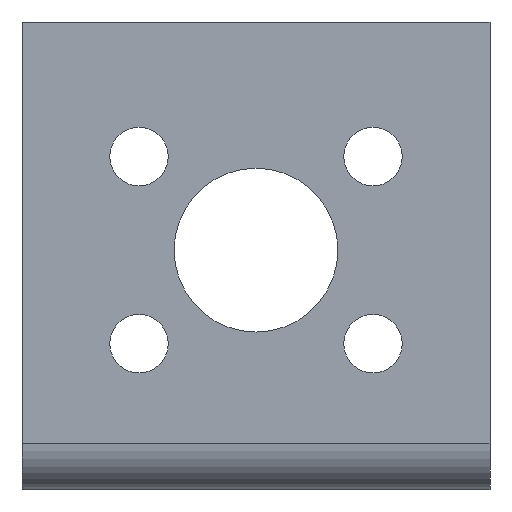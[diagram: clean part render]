
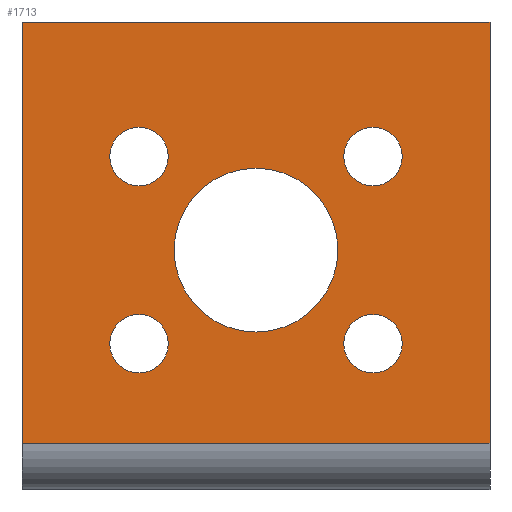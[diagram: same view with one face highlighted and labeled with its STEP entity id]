
A CAD part, front view. The second image highlights one B-rep face of the part: STEP entity #1713.
In plain terms, the highlighted planar face has unit normal (0, -1, 0).
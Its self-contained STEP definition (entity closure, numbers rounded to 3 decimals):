
#18 = ORIENTED_EDGE ( 'NONE', *, *, #375, .F. ) ;
#29 = CIRCLE ( 'NONE', #153, 2.5 ) ;
#55 = DIRECTION ( 'NONE',  ( 0., 0., -1. ) ) ;
#69 = DIRECTION ( 'NONE',  ( 0., 0., -1. ) ) ;
#71 = VERTEX_POINT ( 'NONE', #354 ) ;
#77 = EDGE_CURVE ( 'NONE', #1799, #969, #2242, .T. ) ;
#80 = CARTESIAN_POINT ( 'NONE',  ( 10., -150., 8.5 ) ) ;
#90 = EDGE_CURVE ( 'NONE', #969, #1799, #1185, .T. ) ;
#91 = EDGE_LOOP ( 'NONE', ( #1217, #1016, #755, #822 ) ) ;
#92 = DIRECTION ( 'NONE',  ( 0., 0., -1. ) ) ;
#116 = CIRCLE ( 'NONE', #136, 2.5 ) ;
#123 = AXIS2_PLACEMENT_3D ( 'NONE', #1392, #254, #55 ) ;
#136 = AXIS2_PLACEMENT_3D ( 'NONE', #2150, #645, #1585 ) ;
#153 = AXIS2_PLACEMENT_3D ( 'NONE', #2005, #687, #279 ) ;
#180 = EDGE_LOOP ( 'NONE', ( #405, #1307 ) ) ;
#207 = EDGE_LOOP ( 'NONE', ( #18, #1801 ) ) ;
#226 = EDGE_CURVE ( 'NONE', #71, #636, #1299, .T. ) ;
#244 = AXIS2_PLACEMENT_3D ( 'NONE', #2205, #1459, #2210 ) ;
#254 = DIRECTION ( 'NONE',  ( 0., -1., 0. ) ) ;
#255 = AXIS2_PLACEMENT_3D ( 'NONE', #1158, #943, #1314 ) ;
#260 = DIRECTION ( 'NONE',  ( -1., 0., 0. ) ) ;
#279 = DIRECTION ( 'NONE',  ( 0., 0., -1. ) ) ;
#298 = VERTEX_POINT ( 'NONE', #1832 ) ;
#323 = EDGE_CURVE ( 'NONE', #298, #1192, #29, .T. ) ;
#332 = VERTEX_POINT ( 'NONE', #673 ) ;
#354 = CARTESIAN_POINT ( 'NONE',  ( 20., -150., 20. ) ) ;
#374 = CARTESIAN_POINT ( 'NONE',  ( 10., -150., -7.5 ) ) ;
#375 = EDGE_CURVE ( 'NONE', #1143, #1133, #886, .T. ) ;
#402 = AXIS2_PLACEMENT_3D ( 'NONE', #2381, #1808, #92 ) ;
#405 = ORIENTED_EDGE ( 'NONE', *, *, #1294, .F. ) ;
#459 = LINE ( 'NONE', #1806, #2414 ) ;
#484 = DIRECTION ( 'NONE',  ( -1., 0., 0. ) ) ;
#513 = CARTESIAN_POINT ( 'NONE',  ( -10., -150., 8.5 ) ) ;
#539 = AXIS2_PLACEMENT_3D ( 'NONE', #374, #975, #1715 ) ;
#557 = VECTOR ( 'NONE', #2427, 1000. ) ;
#636 = VERTEX_POINT ( 'NONE', #716 ) ;
#645 = DIRECTION ( 'NONE',  ( 0., -1., 0. ) ) ;
#673 = CARTESIAN_POINT ( 'NONE',  ( 0., -150., 7.5 ) ) ;
#677 = EDGE_CURVE ( 'NONE', #636, #1274, #1240, .T. ) ;
#687 = DIRECTION ( 'NONE',  ( 0., -1., 0. ) ) ;
#716 = CARTESIAN_POINT ( 'NONE',  ( -20., -150., 20. ) ) ;
#755 = ORIENTED_EDGE ( 'NONE', *, *, #1262, .F. ) ;
#813 = EDGE_CURVE ( 'NONE', #71, #1282, #459, .T. ) ;
#815 = AXIS2_PLACEMENT_3D ( 'NONE', #80, #1411, #69 ) ;
#816 = ORIENTED_EDGE ( 'NONE', *, *, #77, .F. ) ;
#822 = ORIENTED_EDGE ( 'NONE', *, *, #813, .F. ) ;
#835 = VERTEX_POINT ( 'NONE', #1998 ) ;
#855 = CARTESIAN_POINT ( 'NONE',  ( -10., -150., 11. ) ) ;
#856 = AXIS2_PLACEMENT_3D ( 'NONE', #2120, #1723, #1325 ) ;
#882 = EDGE_LOOP ( 'NONE', ( #1436, #1421 ) ) ;
#886 = CIRCLE ( 'NONE', #539, 2.5 ) ;
#923 = CIRCLE ( 'NONE', #856, 2.5 ) ;
#931 = VERTEX_POINT ( 'NONE', #1877 ) ;
#932 = ORIENTED_EDGE ( 'NONE', *, *, #323, .F. ) ;
#938 = CARTESIAN_POINT ( 'NONE',  ( -10., -150., 6. ) ) ;
#943 = DIRECTION ( 'NONE',  ( 0., -1., 0. ) ) ;
#961 = CARTESIAN_POINT ( 'NONE',  ( 10., -150., 6. ) ) ;
#969 = VERTEX_POINT ( 'NONE', #938 ) ;
#975 = DIRECTION ( 'NONE',  ( 0., -1., 0. ) ) ;
#1012 = CARTESIAN_POINT ( 'NONE',  ( -10., -150., -5. ) ) ;
#1015 = FACE_BOUND ( 'NONE', #2378, .T. ) ;
#1016 = ORIENTED_EDGE ( 'NONE', *, *, #677, .T. ) ;
#1041 = FACE_BOUND ( 'NONE', #882, .T. ) ;
#1050 = EDGE_CURVE ( 'NONE', #931, #332, #1247, .T. ) ;
#1093 = DIRECTION ( 'NONE',  ( 0., 0., -1. ) ) ;
#1133 = VERTEX_POINT ( 'NONE', #2146 ) ;
#1143 = VERTEX_POINT ( 'NONE', #2130 ) ;
#1158 = CARTESIAN_POINT ( 'NONE',  ( 0., -150., 0.5 ) ) ;
#1185 = CIRCLE ( 'NONE', #2186, 2.5 ) ;
#1192 = VERTEX_POINT ( 'NONE', #1012 ) ;
#1217 = ORIENTED_EDGE ( 'NONE', *, *, #226, .T. ) ;
#1234 = PLANE ( 'NONE',  #402 ) ;
#1240 = LINE ( 'NONE', #1871, #557 ) ;
#1247 = CIRCLE ( 'NONE', #255, 7. ) ;
#1262 = EDGE_CURVE ( 'NONE', #1282, #1274, #1275, .T. ) ;
#1274 = VERTEX_POINT ( 'NONE', #1788 ) ;
#1275 = LINE ( 'NONE', #1594, #2163 ) ;
#1282 = VERTEX_POINT ( 'NONE', #2337 ) ;
#1294 = EDGE_CURVE ( 'NONE', #835, #1535, #2046, .T. ) ;
#1299 = LINE ( 'NONE', #1997, #1809 ) ;
#1307 = ORIENTED_EDGE ( 'NONE', *, *, #1415, .F. ) ;
#1314 = DIRECTION ( 'NONE',  ( 0., 0., -1. ) ) ;
#1325 = DIRECTION ( 'NONE',  ( 0., 0., -1. ) ) ;
#1364 = ORIENTED_EDGE ( 'NONE', *, *, #90, .F. ) ;
#1392 = CARTESIAN_POINT ( 'NONE',  ( 0., -150., 0.5 ) ) ;
#1411 = DIRECTION ( 'NONE',  ( 0., -1., 0. ) ) ;
#1415 = EDGE_CURVE ( 'NONE', #1535, #835, #923, .T. ) ;
#1421 = ORIENTED_EDGE ( 'NONE', *, *, #1050, .F. ) ;
#1436 = ORIENTED_EDGE ( 'NONE', *, *, #1574, .F. ) ;
#1459 = DIRECTION ( 'NONE',  ( 0., -1., 0. ) ) ;
#1535 = VERTEX_POINT ( 'NONE', #961 ) ;
#1562 = EDGE_CURVE ( 'NONE', #1192, #298, #116, .T. ) ;
#1574 = EDGE_CURVE ( 'NONE', #332, #931, #1847, .T. ) ;
#1585 = DIRECTION ( 'NONE',  ( 0., 0., -1. ) ) ;
#1594 = CARTESIAN_POINT ( 'NONE',  ( 0., -150., -16. ) ) ;
#1667 = CARTESIAN_POINT ( 'NONE',  ( -10., -150., 8.5 ) ) ;
#1690 = CIRCLE ( 'NONE', #244, 2.5 ) ;
#1713 = ADVANCED_FACE ( 'NONE', ( #1907, #1935, #1728, #1041, #1015, #2275 ), #1234, .T. ) ;
#1715 = DIRECTION ( 'NONE',  ( 0., 0., -1. ) ) ;
#1723 = DIRECTION ( 'NONE',  ( 0., -1., 0. ) ) ;
#1728 = FACE_BOUND ( 'NONE', #180, .T. ) ;
#1788 = CARTESIAN_POINT ( 'NONE',  ( -20., -150., -16. ) ) ;
#1799 = VERTEX_POINT ( 'NONE', #855 ) ;
#1801 = ORIENTED_EDGE ( 'NONE', *, *, #1802, .F. ) ;
#1802 = EDGE_CURVE ( 'NONE', #1133, #1143, #1690, .T. ) ;
#1806 = CARTESIAN_POINT ( 'NONE',  ( 20., -150., 0. ) ) ;
#1808 = DIRECTION ( 'NONE',  ( 0., -1., 0. ) ) ;
#1809 = VECTOR ( 'NONE', #484, 1000. ) ;
#1832 = CARTESIAN_POINT ( 'NONE',  ( -10., -150., -10. ) ) ;
#1838 = DIRECTION ( 'NONE',  ( 0., -1., 0. ) ) ;
#1840 = DIRECTION ( 'NONE',  ( 0., 0., -1. ) ) ;
#1847 = CIRCLE ( 'NONE', #123, 7. ) ;
#1871 = CARTESIAN_POINT ( 'NONE',  ( -20., -150., 0. ) ) ;
#1877 = CARTESIAN_POINT ( 'NONE',  ( 0., -150., -6.5 ) ) ;
#1898 = AXIS2_PLACEMENT_3D ( 'NONE', #1667, #2057, #2036 ) ;
#1907 = FACE_BOUND ( 'NONE', #2274, .T. ) ;
#1935 = FACE_BOUND ( 'NONE', #207, .T. ) ;
#1997 = CARTESIAN_POINT ( 'NONE',  ( -20., -150., 20. ) ) ;
#1998 = CARTESIAN_POINT ( 'NONE',  ( 10., -150., 11. ) ) ;
#2005 = CARTESIAN_POINT ( 'NONE',  ( -10., -150., -7.5 ) ) ;
#2036 = DIRECTION ( 'NONE',  ( 0., 0., -1. ) ) ;
#2046 = CIRCLE ( 'NONE', #815, 2.5 ) ;
#2057 = DIRECTION ( 'NONE',  ( 0., -1., 0. ) ) ;
#2120 = CARTESIAN_POINT ( 'NONE',  ( 10., -150., 8.5 ) ) ;
#2130 = CARTESIAN_POINT ( 'NONE',  ( 10., -150., -5. ) ) ;
#2146 = CARTESIAN_POINT ( 'NONE',  ( 10., -150., -10. ) ) ;
#2150 = CARTESIAN_POINT ( 'NONE',  ( -10., -150., -7.5 ) ) ;
#2163 = VECTOR ( 'NONE', #260, 1000. ) ;
#2186 = AXIS2_PLACEMENT_3D ( 'NONE', #513, #1838, #1093 ) ;
#2205 = CARTESIAN_POINT ( 'NONE',  ( 10., -150., -7.5 ) ) ;
#2210 = DIRECTION ( 'NONE',  ( 0., 0., -1. ) ) ;
#2242 = CIRCLE ( 'NONE', #1898, 2.5 ) ;
#2274 = EDGE_LOOP ( 'NONE', ( #2341, #932 ) ) ;
#2275 = FACE_OUTER_BOUND ( 'NONE', #91, .T. ) ;
#2337 = CARTESIAN_POINT ( 'NONE',  ( 20., -150., -16. ) ) ;
#2341 = ORIENTED_EDGE ( 'NONE', *, *, #1562, .F. ) ;
#2378 = EDGE_LOOP ( 'NONE', ( #816, #1364 ) ) ;
#2381 = CARTESIAN_POINT ( 'NONE',  ( -20., -150., -20. ) ) ;
#2414 = VECTOR ( 'NONE', #1840, 1000. ) ;
#2427 = DIRECTION ( 'NONE',  ( 0., 0., -1. ) ) ;
